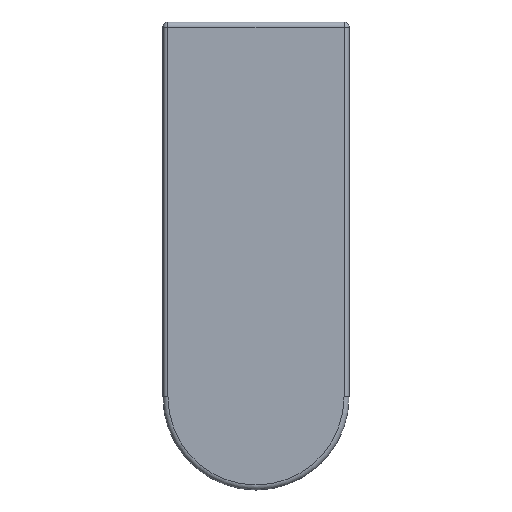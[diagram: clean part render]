
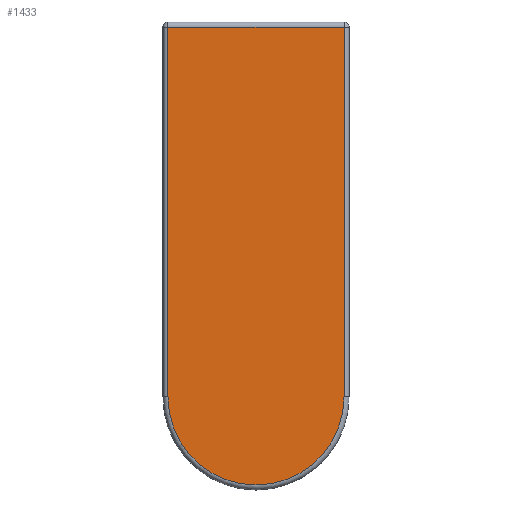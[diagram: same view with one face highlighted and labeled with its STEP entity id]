
A CAD part, front view. The second image highlights one B-rep face of the part: STEP entity #1433.
In plain terms, the highlighted planar face has unit normal (0, -1, 0).
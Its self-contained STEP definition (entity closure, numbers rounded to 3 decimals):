
#30=PLANE('',#1655);
#120=LINE('',#2551,#216);
#121=LINE('',#2559,#217);
#124=LINE('',#2563,#220);
#216=VECTOR('',#2112,10.);
#217=VECTOR('',#2123,10.);
#220=VECTOR('',#2128,10.);
#381=FACE_OUTER_BOUND('',#479,.T.);
#479=EDGE_LOOP('',(#1286,#1287,#1288,#1289));
#592=CIRCLE('',#1636,16.55);
#595=VERTEX_POINT('',#2178);
#597=VERTEX_POINT('',#2183);
#699=VERTEX_POINT('',#2547);
#701=VERTEX_POINT('',#2553);
#897=EDGE_CURVE('',#595,#699,#120,.T.);
#900=EDGE_CURVE('',#699,#701,#592,.T.);
#901=EDGE_CURVE('',#701,#597,#121,.T.);
#904=EDGE_CURVE('',#597,#595,#124,.T.);
#1286=ORIENTED_EDGE('',*,*,#897,.F.);
#1287=ORIENTED_EDGE('',*,*,#904,.F.);
#1288=ORIENTED_EDGE('',*,*,#901,.F.);
#1289=ORIENTED_EDGE('',*,*,#900,.F.);
#1433=ADVANCED_FACE('',(#381),#30,.T.);
#1636=AXIS2_PLACEMENT_3D('',#2557,#2119,#2120);
#1655=AXIS2_PLACEMENT_3D('',#2583,#2164,#2165);
#2112=DIRECTION('',(0.,0.,-1.));
#2119=DIRECTION('center_axis',(0.,1.,0.));
#2120=DIRECTION('ref_axis',(0.,0.,-1.));
#2123=DIRECTION('',(0.,0.,1.));
#2128=DIRECTION('',(1.,0.,0.));
#2164=DIRECTION('center_axis',(0.,-1.,0.));
#2165=DIRECTION('ref_axis',(0.,0.,-1.));
#2178=CARTESIAN_POINT('',(34.05,0.,32.05));
#2183=CARTESIAN_POINT('',(0.95,0.,32.05));
#2547=CARTESIAN_POINT('',(34.05,0.,-37.5));
#2551=CARTESIAN_POINT('',(34.05,0.,14.5));
#2553=CARTESIAN_POINT('',(0.95,0.,-37.5));
#2557=CARTESIAN_POINT('Origin',(17.5,0.,-37.5));
#2559=CARTESIAN_POINT('',(0.95,0.,14.5));
#2563=CARTESIAN_POINT('',(0.,0.,32.05));
#2583=CARTESIAN_POINT('Origin',(0.,0.,33.));
